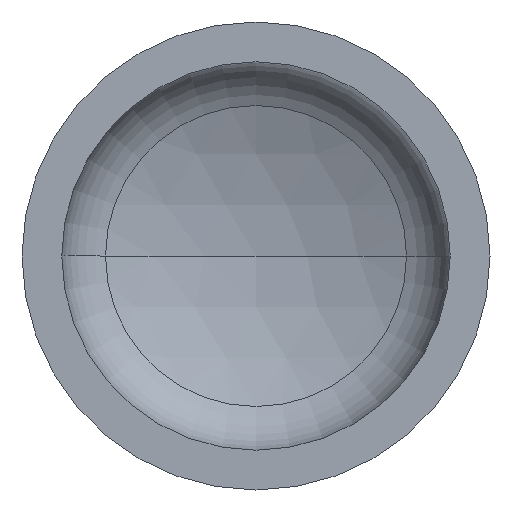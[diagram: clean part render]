
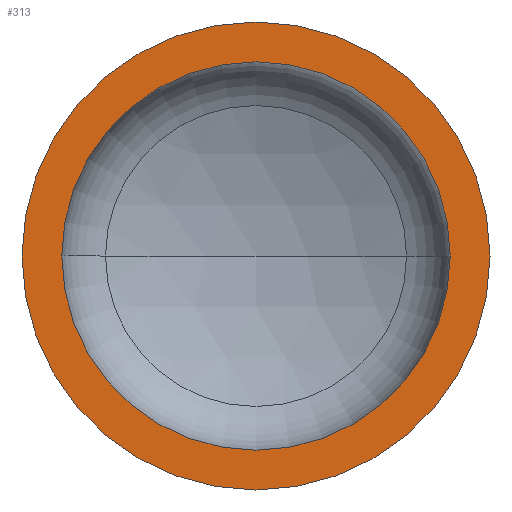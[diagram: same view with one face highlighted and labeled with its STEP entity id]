
A CAD part, front view. The second image highlights one B-rep face of the part: STEP entity #313.
In plain terms, the highlighted planar face has unit normal (0, -1, 0).
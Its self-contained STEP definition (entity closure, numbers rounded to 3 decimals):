
#1 = ORIENTED_EDGE ( 'NONE', *, *, #363, .F. ) ;
#5 = AXIS2_PLACEMENT_3D ( 'NONE', #81, #312, #134 ) ;
#15 = AXIS2_PLACEMENT_3D ( 'NONE', #373, #54, #106 ) ;
#19 = AXIS2_PLACEMENT_3D ( 'NONE', #143, #132, #335 ) ;
#27 = CARTESIAN_POINT ( 'NONE',  ( -400., 0., 0. ) ) ;
#54 = DIRECTION ( 'NONE',  ( 0., -1., 0. ) ) ;
#62 = VERTEX_POINT ( 'NONE', #370 ) ;
#69 = CIRCLE ( 'NONE', #75, 332. ) ;
#71 = CARTESIAN_POINT ( 'NONE',  ( -332., 0., 0. ) ) ;
#75 = AXIS2_PLACEMENT_3D ( 'NONE', #306, #305, #316 ) ;
#78 = AXIS2_PLACEMENT_3D ( 'NONE', #350, #118, #371 ) ;
#81 = CARTESIAN_POINT ( 'NONE',  ( 0., 0., 0. ) ) ;
#82 = CIRCLE ( 'NONE', #5, 400. ) ;
#86 = EDGE_LOOP ( 'NONE', ( #96, #1 ) ) ;
#96 = ORIENTED_EDGE ( 'NONE', *, *, #111, .F. ) ;
#106 = DIRECTION ( 'NONE',  ( 1., 0., 0. ) ) ;
#109 = EDGE_CURVE ( 'NONE', #219, #175, #390, .T. ) ;
#111 = EDGE_CURVE ( 'NONE', #62, #157, #69, .T. ) ;
#118 = DIRECTION ( 'NONE',  ( 0., -1., 0. ) ) ;
#125 = ORIENTED_EDGE ( 'NONE', *, *, #109, .T. ) ;
#128 = PLANE ( 'NONE',  #19 ) ;
#132 = DIRECTION ( 'NONE',  ( 0., 1., 0. ) ) ;
#134 = DIRECTION ( 'NONE',  ( 1., 0., 0. ) ) ;
#143 = CARTESIAN_POINT ( 'NONE',  ( -400., 0., 0. ) ) ;
#157 = VERTEX_POINT ( 'NONE', #71 ) ;
#175 = VERTEX_POINT ( 'NONE', #177 ) ;
#177 = CARTESIAN_POINT ( 'NONE',  ( 400., 0., 0. ) ) ;
#182 = ORIENTED_EDGE ( 'NONE', *, *, #383, .T. ) ;
#194 = EDGE_LOOP ( 'NONE', ( #182, #125 ) ) ;
#219 = VERTEX_POINT ( 'NONE', #27 ) ;
#235 = FACE_BOUND ( 'NONE', #86, .T. ) ;
#296 = FACE_OUTER_BOUND ( 'NONE', #194, .T. ) ;
#305 = DIRECTION ( 'NONE',  ( 0., -1., 0. ) ) ;
#306 = CARTESIAN_POINT ( 'NONE',  ( 0., 0., 0. ) ) ;
#312 = DIRECTION ( 'NONE',  ( 0., -1., 0. ) ) ;
#313 = ADVANCED_FACE ( 'NONE', ( #235, #296 ), #128, .F. ) ;
#316 = DIRECTION ( 'NONE',  ( 1., 0., 0. ) ) ;
#335 = DIRECTION ( 'NONE',  ( -1., 0., 0. ) ) ;
#343 = CIRCLE ( 'NONE', #15, 332. ) ;
#350 = CARTESIAN_POINT ( 'NONE',  ( 0., 0., 0. ) ) ;
#363 = EDGE_CURVE ( 'NONE', #157, #62, #343, .T. ) ;
#370 = CARTESIAN_POINT ( 'NONE',  ( 332., 0., 0. ) ) ;
#371 = DIRECTION ( 'NONE',  ( 1., 0., 0. ) ) ;
#373 = CARTESIAN_POINT ( 'NONE',  ( 0., 0., 0. ) ) ;
#383 = EDGE_CURVE ( 'NONE', #175, #219, #82, .T. ) ;
#390 = CIRCLE ( 'NONE', #78, 400. ) ;
